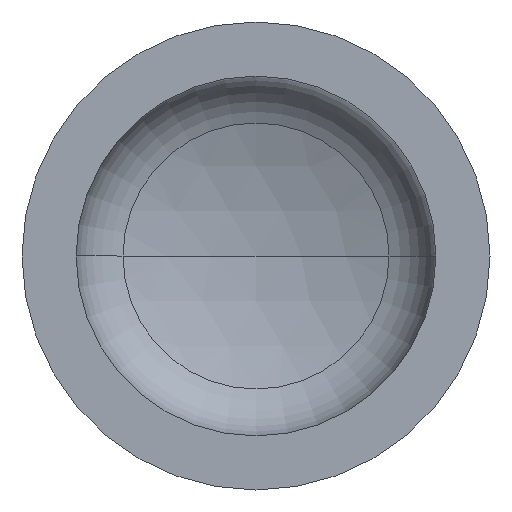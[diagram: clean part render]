
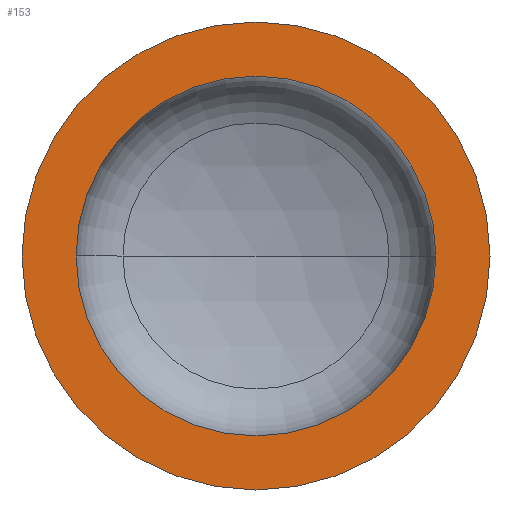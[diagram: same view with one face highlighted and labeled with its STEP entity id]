
A CAD part, front view. The second image highlights one B-rep face of the part: STEP entity #153.
In plain terms, the highlighted planar face has unit normal (0, -1, 0).
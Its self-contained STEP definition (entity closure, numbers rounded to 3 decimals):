
#8 = EDGE_LOOP ( 'NONE', ( #76, #51 ) ) ;
#17 = VERTEX_POINT ( 'NONE', #282 ) ;
#29 = AXIS2_PLACEMENT_3D ( 'NONE', #160, #118, #121 ) ;
#45 = EDGE_LOOP ( 'NONE', ( #126, #119 ) ) ;
#46 = AXIS2_PLACEMENT_3D ( 'NONE', #272, #236, #235 ) ;
#51 = ORIENTED_EDGE ( 'NONE', *, *, #109, .T. ) ;
#66 = AXIS2_PLACEMENT_3D ( 'NONE', #181, #218, #220 ) ;
#76 = ORIENTED_EDGE ( 'NONE', *, *, #266, .T. ) ;
#77 = AXIS2_PLACEMENT_3D ( 'NONE', #308, #306, #304 ) ;
#83 = AXIS2_PLACEMENT_3D ( 'NONE', #353, #352, #166 ) ;
#85 = VERTEX_POINT ( 'NONE', #285 ) ;
#109 = EDGE_CURVE ( 'NONE', #85, #120, #378, .T. ) ;
#110 = EDGE_CURVE ( 'NONE', #114, #17, #325, .T. ) ;
#114 = VERTEX_POINT ( 'NONE', #374 ) ;
#118 = DIRECTION ( 'NONE',  ( 0., -1., 0. ) ) ;
#119 = ORIENTED_EDGE ( 'NONE', *, *, #248, .F. ) ;
#120 = VERTEX_POINT ( 'NONE', #331 ) ;
#121 = DIRECTION ( 'NONE',  ( 1., 0., 0. ) ) ;
#126 = ORIENTED_EDGE ( 'NONE', *, *, #110, .F. ) ;
#153 = ADVANCED_FACE ( 'NONE', ( #240, #180 ), #299, .F. ) ;
#160 = CARTESIAN_POINT ( 'NONE',  ( 0., 0., 0. ) ) ;
#166 = DIRECTION ( 'NONE',  ( 1., 0., 0. ) ) ;
#180 = FACE_OUTER_BOUND ( 'NONE', #8, .T. ) ;
#181 = CARTESIAN_POINT ( 'NONE',  ( -450., 0., 0. ) ) ;
#214 = CIRCLE ( 'NONE', #29, 450. ) ;
#218 = DIRECTION ( 'NONE',  ( 0., 1., 0. ) ) ;
#220 = DIRECTION ( 'NONE',  ( -1., 0., 0. ) ) ;
#235 = DIRECTION ( 'NONE',  ( 1., 0., 0. ) ) ;
#236 = DIRECTION ( 'NONE',  ( 0., -1., 0. ) ) ;
#240 = FACE_BOUND ( 'NONE', #45, .T. ) ;
#248 = EDGE_CURVE ( 'NONE', #17, #114, #409, .T. ) ;
#266 = EDGE_CURVE ( 'NONE', #120, #85, #214, .T. ) ;
#272 = CARTESIAN_POINT ( 'NONE',  ( 0., 0., 0. ) ) ;
#282 = CARTESIAN_POINT ( 'NONE',  ( -346., 0., 0. ) ) ;
#285 = CARTESIAN_POINT ( 'NONE',  ( -450., 0., 0. ) ) ;
#299 = PLANE ( 'NONE',  #66 ) ;
#304 = DIRECTION ( 'NONE',  ( 1., 0., 0. ) ) ;
#306 = DIRECTION ( 'NONE',  ( 0., -1., 0. ) ) ;
#308 = CARTESIAN_POINT ( 'NONE',  ( 0., 0., 0. ) ) ;
#325 = CIRCLE ( 'NONE', #77, 346. ) ;
#331 = CARTESIAN_POINT ( 'NONE',  ( 450., 0., 0. ) ) ;
#352 = DIRECTION ( 'NONE',  ( 0., -1., 0. ) ) ;
#353 = CARTESIAN_POINT ( 'NONE',  ( 0., 0., 0. ) ) ;
#374 = CARTESIAN_POINT ( 'NONE',  ( 346., 0., 0. ) ) ;
#378 = CIRCLE ( 'NONE', #83, 450. ) ;
#409 = CIRCLE ( 'NONE', #46, 346. ) ;
